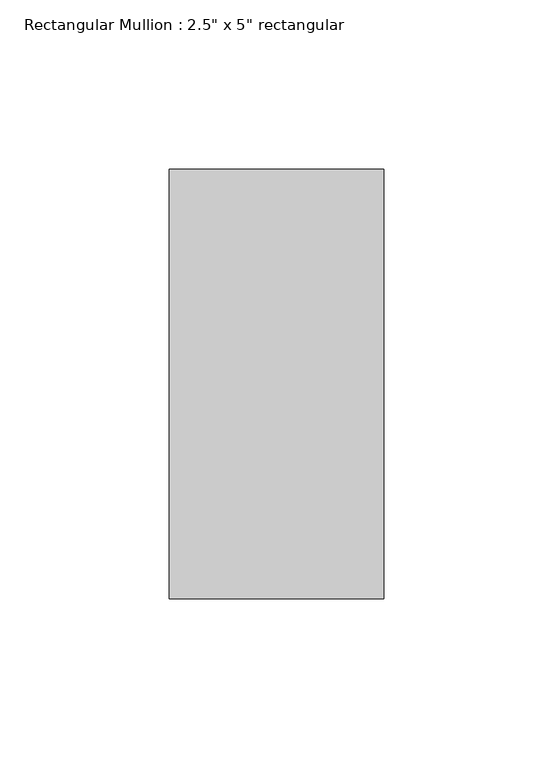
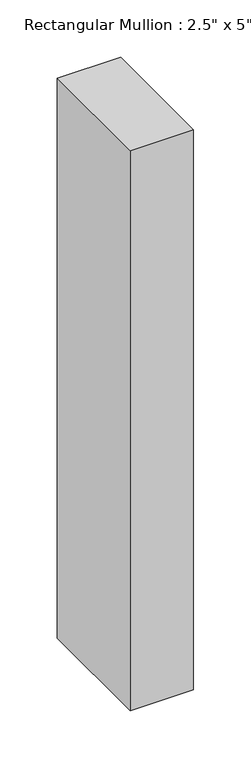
"""IFC4 building model written with IfcOpenShell, lengths in millimetres: member geometry."""

import ifcopenshell
import ifcopenshell.guid

model = None  # the IFC model being written
_history = None  # IfcOwnerHistory: only IFC2X3 demands one
_inside = {}  # id of a spatial element -> (the spatial element, [elements in it])
_under = {}  # id of a project, library or spatial element -> (it, [spatial elements below it])
_declared = {}  # id of a project -> (the project, [libraries it declares])
_typed = {}  # id of a type object -> (the type object, [elements of that type])
_made_of = {}  # id of a material, layer set ... -> (it, [elements and type objects made of it])


def new_model(schema):
    """Start an empty IFC model of exactly this schema.

    Asked for "IFC4X3", IfcOpenShell would pick the latest addendum, in which some entities
    have other attributes; the version numbers below select the first issue.
    IFC2X3 requires an IfcOwnerHistory on every rooted entity: one is made here for all.
    """
    global model, _history
    if schema == "IFC4X3":
        model = ifcopenshell.file(schema_version=(4, 3, 0, 0))
    else:
        model = ifcopenshell.file(schema=schema)
    _inside.clear()
    _under.clear()
    _declared.clear()
    _typed.clear()
    _made_of.clear()
    _history = None
    if model.schema == "IFC2X3":
        org = make("IfcOrganization", Name="unknown")
        user = make(
            "IfcPersonAndOrganization",
            ThePerson=make("IfcPerson", FamilyName="unknown"),
            TheOrganization=org,
        )
        app = make(
            "IfcApplication",
            ApplicationDeveloper=org,
            Version="unknown",
            ApplicationFullName="unknown",
            ApplicationIdentifier="unknown",
        )
        _history = make(
            "IfcOwnerHistory",
            OwningUser=user,
            OwningApplication=app,
            ChangeAction="ADDED",
            CreationDate=0,
        )
    return model


def make(cls, **values):
    """One entity of the class cls with the attributes given. An attribute that is None is left unset."""
    return model.create_entity(
        cls, **{name: value for name, value in values.items() if value is not None}
    )


def rooted(cls, **values):
    """An entity with a GlobalId (a new one), such as an element, a storey or a relation."""
    return make(cls, GlobalId=ifcopenshell.guid.new(), OwnerHistory=_history, **values)


def si_unit(unit_type, name, prefix=None):
    """IfcSIUnit, for example si_unit("LENGTHUNIT", "METRE", prefix="MILLI")."""
    return make("IfcSIUnit", UnitType=unit_type, Prefix=prefix, Name=name)


def assignment(units):
    """IfcUnitAssignment: the units of a project."""
    return None if units is None else make("IfcUnitAssignment", Units=units)


def point(xyz):
    """IfcCartesianPoint."""
    return None if xyz is None else make("IfcCartesianPoint", Coordinates=xyz)


def direction(xyz):
    """IfcDirection."""
    return None if xyz is None else make("IfcDirection", DirectionRatios=xyz)


def frame(location, z_axis=None, x_axis=None):
    """IfcAxis2Placement3D, a coordinate frame: its origin and axes. An axis left out is left unset."""
    return make(
        "IfcAxis2Placement3D",
        Location=point(location),
        Axis=direction(z_axis),
        RefDirection=direction(x_axis),
    )


def origin():
    """The frame at (0, 0, 0) with its axes left unset."""
    return frame((0.0, 0.0, 0.0))


def place(relative_to, where):
    """IfcLocalPlacement: puts the frame where relative to a parent placement (None: the world)."""
    return make(
        "IfcLocalPlacement", PlacementRelTo=relative_to, RelativePlacement=where
    )


def context(
    kind, dimensions, precision=None, world=None, true_north=None, identifier=None
):
    """IfcGeometricRepresentationContext, for example the 3D "Model" context."""
    return make(
        "IfcGeometricRepresentationContext",
        ContextIdentifier=identifier,
        ContextType=kind,
        CoordinateSpaceDimension=dimensions,
        Precision=precision,
        WorldCoordinateSystem=world,
        TrueNorth=true_north,
    )


def project(units=None, contexts=None):
    """IfcProject with its units and contexts."""
    return rooted(
        "IfcProject",
        Name="project",
        RepresentationContexts=contexts,
        UnitsInContext=assignment(units),
    )


def spatial(cls, under=None, at=None, **own):
    """A site, building, storey or space (cls), placed at a placement, below another one or the project."""
    s = rooted(cls, ObjectPlacement=at, **own)
    if under is not None:
        _under.setdefault(under.id(), (under, []))[1].append(s)
    return s


def polyline(points):
    """IfcPolyline through the points."""
    return make("IfcPolyline", Points=[point(p) for p in points])


def outline(outer, holes=None, kind="AREA"):
    """IfcArbitraryClosedProfileDef: a profile drawn as a closed curve; with holes, ...WithVoids."""
    if holes is None:
        return make("IfcArbitraryClosedProfileDef", ProfileType=kind, OuterCurve=outer)
    return make(
        "IfcArbitraryProfileDefWithVoids",
        ProfileType=kind,
        OuterCurve=outer,
        InnerCurves=holes,
    )


def extrude(swept, where, along, depth):
    """IfcExtrudedAreaSolid: the profile swept, set in the frame where, extruded along a direction by depth."""
    return make(
        "IfcExtrudedAreaSolid",
        SweptArea=swept,
        Position=where,
        ExtrudedDirection=direction(along),
        Depth=depth,
    )


def shape(context_of_items, identifier, shape_type, items):
    """IfcShapeRepresentation: the items that make up one representation, for example the "Body"."""
    return make(
        "IfcShapeRepresentation",
        ContextOfItems=context_of_items,
        RepresentationIdentifier=identifier,
        RepresentationType=shape_type,
        Items=items,
    )


def source(mapping_origin, context_of_items, identifier, shape_type, items):
    """IfcRepresentationMap: a shape defined once, which mapped items show again and again."""
    return make(
        "IfcRepresentationMap",
        MappingOrigin=mapping_origin,
        MappedRepresentation=shape(context_of_items, identifier, shape_type, items),
    )


def transform(
    local_origin,
    x_axis=None,
    y_axis=None,
    z_axis=None,
    scale=None,
    scale2=None,
    scale3=None,
    uniform=True,
):
    """IfcCartesianTransformationOperator3D, or its non-uniform kind. x_axis, y_axis, z_axis: its Axis1, 2, 3."""
    if uniform:
        return make(
            "IfcCartesianTransformationOperator3D",
            Axis1=direction(x_axis),
            Axis2=direction(y_axis),
            LocalOrigin=point(local_origin),
            Scale=scale,
            Axis3=direction(z_axis),
        )
    return make(
        "IfcCartesianTransformationOperator3DnonUniform",
        Axis1=direction(x_axis),
        Axis2=direction(y_axis),
        LocalOrigin=point(local_origin),
        Scale=scale,
        Axis3=direction(z_axis),
        Scale2=scale2,
        Scale3=scale3,
    )


def mapped(mapping_source, mapping_target):
    """IfcMappedItem: shows the shape of a source again, moved by a transform."""
    return make(
        "IfcMappedItem", MappingSource=mapping_source, MappingTarget=mapping_target
    )


def made_of(thing, what):
    """Note that an element or type object is made of a material, layer set ...; save() writes the relation."""
    if what is not None:
        _made_of.setdefault(what.id(), (what, []))[1].append(thing)
    return thing


def element(
    cls,
    number,
    at=None,
    inside=None,
    cuts=None,
    type_object=None,
    material=None,
    context=None,
    identifier="Body",
    shape_type=None,
    held_by="IfcProductDefinitionShape",
    body=None,
    shapes=None,
    **own,
):
    """One element of the class cls, such as IfcWall. Its Tag is "e" and its number.

    at: its placement. inside: the storey or other place that contains it. cuts: it is an
    opening in that element (IfcRelVoidsElement). A single representation is given by context,
    identifier, shape_type and body (its items); several are given by shapes. held_by: the class
    of the entity that holds the representations. save() writes the other relations.
    """
    e = rooted(cls, Tag="e%d" % number, ObjectPlacement=at, **own)
    if body is not None:
        shapes = [shape(context, identifier, shape_type, body)]
    if shapes is not None:
        e.Representation = make(held_by, Representations=shapes)
    if inside is not None:
        _inside.setdefault(inside.id(), (inside, []))[1].append(e)
    if cuts is not None:
        rooted(
            "IfcRelVoidsElement", RelatingBuildingElement=cuts, RelatedOpeningElement=e
        )
    if type_object is not None:
        _typed.setdefault(type_object.id(), (type_object, []))[1].append(e)
    return made_of(e, material)


def aggregate(whole, parts):
    """IfcRelAggregates: a whole, such as a stair, and the parts it consists of."""
    return rooted("IfcRelAggregates", RelatingObject=whole, RelatedObjects=parts)


def save(model, path):
    """Write the relations noted so far, then the file.

    IfcRelAggregates (storeys below a building ...), IfcRelContainedInSpatialStructure (elements
    in a storey), IfcRelDefinesByType, IfcRelAssociatesMaterial and IfcRelDeclares: one each for
    every whole, place, type object, material and project.
    """
    for whole, parts in _under.values():
        aggregate(whole, parts)
    for where, things in _inside.values():
        rooted(
            "IfcRelContainedInSpatialStructure",
            RelatedElements=things,
            RelatingStructure=where,
        )
    for kind, things in _typed.values():
        rooted("IfcRelDefinesByType", RelatedObjects=things, RelatingType=kind)
    for what, things in _made_of.values():
        rooted("IfcRelAssociatesMaterial", RelatedObjects=things, RelatingMaterial=what)
    for by, libraries in _declared.values():
        rooted("IfcRelDeclares", RelatingContext=by, RelatedDefinitions=libraries)
    model.write(path)


def member_b5354135(model_context):
    return source(origin(), model_context, "Body", "SweptSolid", [
        extrude(outline(polyline([(31.75, 63.5), (31.75, -63.5), (-31.75, -63.5), (-31.75, 63.5), (31.75, 63.5)])), frame((0.0, 0.0, -595.4), z_axis=(0.0, 0.0, 1.0), x_axis=(1.0, 0.0, 0.0)), (0.0, 0.0, 1.0), 595.4),
    ])


if __name__ == "__main__":
    model = new_model("IFC4")
    model_context = context("Model", 3, world=origin())
    ifc_project = project(units=[si_unit("LENGTHUNIT", "METRE", prefix="MILLI")], contexts=[model_context])
    site = spatial("IfcSite", under=ifc_project)
    building = spatial("IfcBuilding", under=site)
    placement = place(None, origin())
    member_shape = member_b5354135(model_context)
    element("IfcMember", 1, ObjectType="Rectangular Mullion : 2.5\" x 5\" rectangular", at=placement, inside=building, context=model_context, shape_type="MappedRepresentation", body=[
        mapped(member_shape, transform((0.0, 0.0, 0.0), x_axis=(1.0, 0.0, 0.0), y_axis=(0.0, 1.0, 0.0), z_axis=(0.0, 0.0, 1.0))),
    ])
    save(model, "model.ifc")
